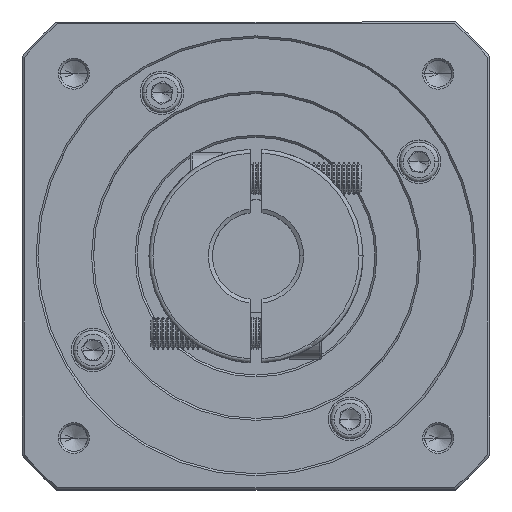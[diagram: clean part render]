
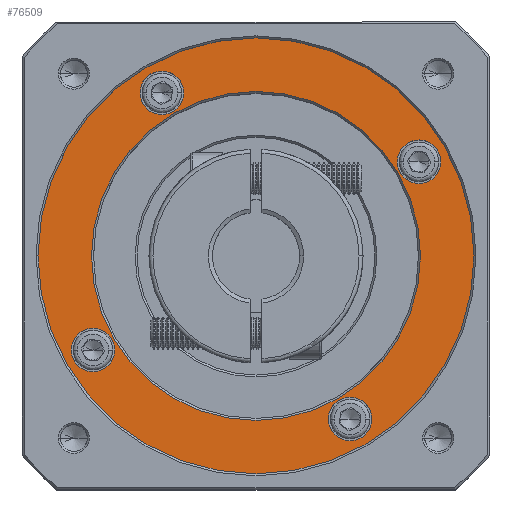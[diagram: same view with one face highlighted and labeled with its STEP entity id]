
A CAD part, top view. The second image highlights one B-rep face of the part: STEP entity #76509.
In plain terms, the highlighted planar face has unit normal (0, 0, 1).
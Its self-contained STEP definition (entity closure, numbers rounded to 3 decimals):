
#487 = DIRECTION ( 'NONE',  ( 1., 0., 0. ) ) ;
#870 = CIRCLE ( 'NONE', #107746, 5.5 ) ;
#1633 = VERTEX_POINT ( 'NONE', #62285 ) ;
#1806 = CARTESIAN_POINT ( 'NONE',  ( 89.893, 147.135, 9.997 ) ) ;
#2793 = EDGE_LOOP ( 'NONE', ( #19204, #10884 ) ) ;
#3091 = CIRCLE ( 'NONE', #21776, 5.5 ) ;
#3813 = DIRECTION ( 'NONE',  ( 0., -1., 0. ) ) ;
#3880 = VERTEX_POINT ( 'NONE', #1806 ) ;
#4284 = DIRECTION ( 'NONE',  ( 0., 0., -1. ) ) ;
#5096 = EDGE_CURVE ( 'NONE', #117800, #3880, #34015, .T. ) ;
#5178 = CARTESIAN_POINT ( 'NONE',  ( 72.507, 82.249, 9.997 ) ) ;
#5759 = DIRECTION ( 'NONE',  ( 0., 0., 1. ) ) ;
#5872 = DIRECTION ( 'NONE',  ( 1., 0., 0. ) ) ;
#7937 = EDGE_CURVE ( 'NONE', #3880, #117800, #80860, .T. ) ;
#8425 = AXIS2_PLACEMENT_3D ( 'NONE', #60517, #4284, #70000 ) ;
#10884 = ORIENTED_EDGE ( 'NONE', *, *, #66654, .T. ) ;
#13828 = EDGE_CURVE ( 'NONE', #97115, #76224, #42466, .T. ) ;
#13925 = AXIS2_PLACEMENT_3D ( 'NONE', #113033, #56795, #487 ) ;
#16322 = AXIS2_PLACEMENT_3D ( 'NONE', #48805, #114543, #58277 ) ;
#17570 = FACE_BOUND ( 'NONE', #95710, .T. ) ;
#19204 = ORIENTED_EDGE ( 'NONE', *, *, #82512, .T. ) ;
#20527 = FACE_OUTER_BOUND ( 'NONE', #45438, .T. ) ;
#21776 = AXIS2_PLACEMENT_3D ( 'NONE', #105194, #48878, #114622 ) ;
#21874 = AXIS2_PLACEMENT_3D ( 'NONE', #93915, #37667, #103336 ) ;
#22209 = AXIS2_PLACEMENT_3D ( 'NONE', #118437, #62078, #5872 ) ;
#23349 = EDGE_CURVE ( 'NONE', #99342, #92202, #53375, .T. ) ;
#24299 = PLANE ( 'NONE',  #84765 ) ;
#24760 = ORIENTED_EDGE ( 'NONE', *, *, #5096, .T. ) ;
#25352 = VERTEX_POINT ( 'NONE', #35398 ) ;
#25806 = ORIENTED_EDGE ( 'NONE', *, *, #37869, .T. ) ;
#27660 = CARTESIAN_POINT ( 'NONE',  ( 61.507, 82.249, 9.997 ) ) ;
#28284 = CIRCLE ( 'NONE', #21874, 5.5 ) ;
#29955 = EDGE_CURVE ( 'NONE', #76224, #97115, #48293, .T. ) ;
#30813 = VERTEX_POINT ( 'NONE', #5178 ) ;
#31392 = CARTESIAN_POINT ( 'NONE',  ( 2.121, 99.635, 9.997 ) ) ;
#32341 = EDGE_LOOP ( 'NONE', ( #101621, #25806 ) ) ;
#34015 = CIRCLE ( 'NONE', #116308, 5.5 ) ;
#34180 = CARTESIAN_POINT ( 'NONE',  ( 43.257, 123.385, 9.997 ) ) ;
#35398 = CARTESIAN_POINT ( 'NONE',  ( 25.007, 164.521, 9.997 ) ) ;
#35444 = ORIENTED_EDGE ( 'NONE', *, *, #7937, .T. ) ;
#37667 = DIRECTION ( 'NONE',  ( 0., 0., -1. ) ) ;
#37869 = EDGE_CURVE ( 'NONE', #98545, #30813, #102482, .T. ) ;
#40803 = DIRECTION ( 'NONE',  ( 1., 0., 0. ) ) ;
#42466 = CIRCLE ( 'NONE', #46182, 55. ) ;
#42520 = FACE_BOUND ( 'NONE', #97104, .T. ) ;
#42850 = VERTEX_POINT ( 'NONE', #68502 ) ;
#43610 = DIRECTION ( 'NONE',  ( 1., 0., 0. ) ) ;
#44220 = CARTESIAN_POINT ( 'NONE',  ( 43.257, 123.385, 9.997 ) ) ;
#44906 = AXIS2_PLACEMENT_3D ( 'NONE', #34180, #99816, #43610 ) ;
#45438 = EDGE_LOOP ( 'NONE', ( #79692, #83132 ) ) ;
#46182 = AXIS2_PLACEMENT_3D ( 'NONE', #44220, #109905, #53627 ) ;
#47365 = CARTESIAN_POINT ( 'NONE',  ( 84.393, 147.135, 9.997 ) ) ;
#47798 = ORIENTED_EDGE ( 'NONE', *, *, #100126, .T. ) ;
#48293 = CIRCLE ( 'NONE', #44906, 55. ) ;
#48805 = CARTESIAN_POINT ( 'NONE',  ( 2.121, 99.635, 9.997 ) ) ;
#48878 = DIRECTION ( 'NONE',  ( 0., 0., -1. ) ) ;
#53375 = CIRCLE ( 'NONE', #74699, 41.5 ) ;
#53627 = DIRECTION ( 'NONE',  ( 1., 0., 0. ) ) ;
#54955 = CARTESIAN_POINT ( 'NONE',  ( 14.007, 164.521, 9.997 ) ) ;
#55581 = DIRECTION ( 'NONE',  ( 0., 0., -1. ) ) ;
#55969 = CARTESIAN_POINT ( 'NONE',  ( -11.743, 123.385, 9.997 ) ) ;
#56795 = DIRECTION ( 'NONE',  ( 0., 0., -1. ) ) ;
#56818 = DIRECTION ( 'NONE',  ( 1., 0., 0. ) ) ;
#58277 = DIRECTION ( 'NONE',  ( 1., 0., 0. ) ) ;
#60045 = DIRECTION ( 'NONE',  ( 0., 0., -1. ) ) ;
#60517 = CARTESIAN_POINT ( 'NONE',  ( 67.007, 82.249, 9.997 ) ) ;
#61812 = CIRCLE ( 'NONE', #8425, 5.5 ) ;
#61907 = VERTEX_POINT ( 'NONE', #54955 ) ;
#61940 = CIRCLE ( 'NONE', #112005, 41.5 ) ;
#61984 = CARTESIAN_POINT ( 'NONE',  ( 43.257, 123.385, 9.997 ) ) ;
#62078 = DIRECTION ( 'NONE',  ( 0., 0., -1. ) ) ;
#62285 = CARTESIAN_POINT ( 'NONE',  ( 7.621, 99.635, 9.997 ) ) ;
#63633 = ORIENTED_EDGE ( 'NONE', *, *, #23349, .T. ) ;
#64505 = FACE_BOUND ( 'NONE', #117430, .T. ) ;
#66654 = EDGE_CURVE ( 'NONE', #61907, #25352, #3091, .T. ) ;
#68502 = CARTESIAN_POINT ( 'NONE',  ( -3.379, 99.635, 9.997 ) ) ;
#69888 = CIRCLE ( 'NONE', #16322, 5.5 ) ;
#70000 = DIRECTION ( 'NONE',  ( 1., 0., 0. ) ) ;
#71445 = DIRECTION ( 'NONE',  ( 1., 0., 0. ) ) ;
#74699 = AXIS2_PLACEMENT_3D ( 'NONE', #111836, #55581, #121351 ) ;
#76224 = VERTEX_POINT ( 'NONE', #103171 ) ;
#76509 = ADVANCED_FACE ( 'NONE', ( #20527, #42520, #17570, #114504, #89464, #64505 ), #24299, .T. ) ;
#79594 = EDGE_CURVE ( 'NONE', #92202, #99342, #61940, .T. ) ;
#79692 = ORIENTED_EDGE ( 'NONE', *, *, #29955, .T. ) ;
#80860 = CIRCLE ( 'NONE', #22209, 5.5 ) ;
#81951 = EDGE_CURVE ( 'NONE', #1633, #42850, #69888, .T. ) ;
#82512 = EDGE_CURVE ( 'NONE', #25352, #61907, #28284, .T. ) ;
#83132 = ORIENTED_EDGE ( 'NONE', *, *, #13828, .T. ) ;
#84765 = AXIS2_PLACEMENT_3D ( 'NONE', #61984, #5759, #71445 ) ;
#85677 = CARTESIAN_POINT ( 'NONE',  ( 78.893, 147.135, 9.997 ) ) ;
#88869 = CARTESIAN_POINT ( 'NONE',  ( 43.257, 81.885, 9.997 ) ) ;
#89464 = FACE_BOUND ( 'NONE', #2793, .T. ) ;
#91458 = CARTESIAN_POINT ( 'NONE',  ( 43.257, 164.885, 9.997 ) ) ;
#92202 = VERTEX_POINT ( 'NONE', #88869 ) ;
#93915 = CARTESIAN_POINT ( 'NONE',  ( 19.507, 164.521, 9.997 ) ) ;
#95710 = EDGE_LOOP ( 'NONE', ( #35444, #24760 ) ) ;
#97055 = DIRECTION ( 'NONE',  ( 0., 0., -1. ) ) ;
#97104 = EDGE_LOOP ( 'NONE', ( #103481, #63633 ) ) ;
#97115 = VERTEX_POINT ( 'NONE', #55969 ) ;
#98545 = VERTEX_POINT ( 'NONE', #27660 ) ;
#99342 = VERTEX_POINT ( 'NONE', #91458 ) ;
#99816 = DIRECTION ( 'NONE',  ( 0., 0., 1. ) ) ;
#100126 = EDGE_CURVE ( 'NONE', #42850, #1633, #870, .T. ) ;
#101621 = ORIENTED_EDGE ( 'NONE', *, *, #121636, .T. ) ;
#102482 = CIRCLE ( 'NONE', #13925, 5.5 ) ;
#103171 = CARTESIAN_POINT ( 'NONE',  ( 98.257, 123.385, 9.997 ) ) ;
#103336 = DIRECTION ( 'NONE',  ( 1., 0., 0. ) ) ;
#103481 = ORIENTED_EDGE ( 'NONE', *, *, #79594, .T. ) ;
#105194 = CARTESIAN_POINT ( 'NONE',  ( 19.507, 164.521, 9.997 ) ) ;
#107746 = AXIS2_PLACEMENT_3D ( 'NONE', #31392, #97055, #40803 ) ;
#109905 = DIRECTION ( 'NONE',  ( 0., 0., 1. ) ) ;
#111836 = CARTESIAN_POINT ( 'NONE',  ( 43.257, 123.385, 9.997 ) ) ;
#112005 = AXIS2_PLACEMENT_3D ( 'NONE', #116416, #60045, #3813 ) ;
#113033 = CARTESIAN_POINT ( 'NONE',  ( 67.007, 82.249, 9.997 ) ) ;
#113053 = DIRECTION ( 'NONE',  ( 0., 0., -1. ) ) ;
#114504 = FACE_BOUND ( 'NONE', #32341, .T. ) ;
#114543 = DIRECTION ( 'NONE',  ( 0., 0., -1. ) ) ;
#114622 = DIRECTION ( 'NONE',  ( 1., 0., 0. ) ) ;
#116308 = AXIS2_PLACEMENT_3D ( 'NONE', #47365, #113053, #56818 ) ;
#116416 = CARTESIAN_POINT ( 'NONE',  ( 43.257, 123.385, 9.997 ) ) ;
#117430 = EDGE_LOOP ( 'NONE', ( #117848, #47798 ) ) ;
#117800 = VERTEX_POINT ( 'NONE', #85677 ) ;
#117848 = ORIENTED_EDGE ( 'NONE', *, *, #81951, .T. ) ;
#118437 = CARTESIAN_POINT ( 'NONE',  ( 84.393, 147.135, 9.997 ) ) ;
#121351 = DIRECTION ( 'NONE',  ( 0., -1., 0. ) ) ;
#121636 = EDGE_CURVE ( 'NONE', #30813, #98545, #61812, .T. ) ;
